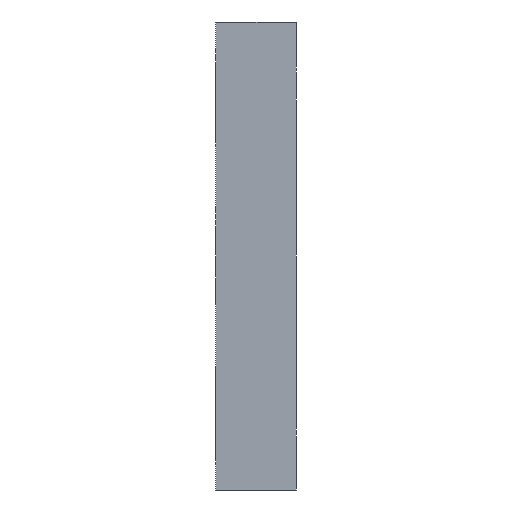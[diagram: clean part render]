
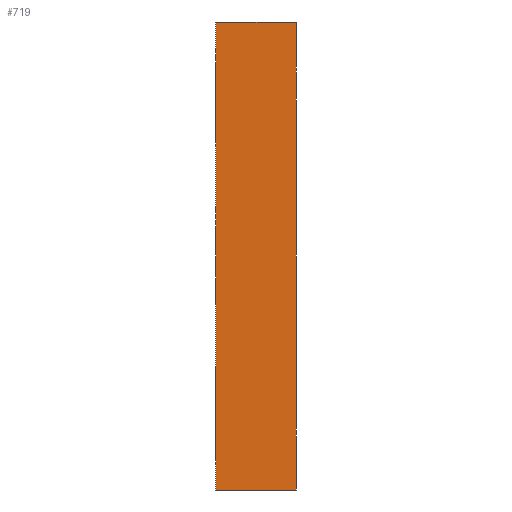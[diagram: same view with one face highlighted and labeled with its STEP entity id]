
A CAD part, left-side view. The second image highlights one B-rep face of the part: STEP entity #719.
In plain terms, the highlighted planar face has unit normal (-1, 0, 0).
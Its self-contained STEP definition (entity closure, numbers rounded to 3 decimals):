
#445 = DIRECTION ( 'NONE',  ( 0., 1., 0. ) ) ;
#446 = VECTOR ( 'NONE', #445, 1000. ) ;
#447 = CARTESIAN_POINT ( 'NONE',  ( -65., -15., 43.5 ) ) ;
#448 = LINE ( 'NONE', #447, #446 ) ;
#449 = CARTESIAN_POINT ( 'NONE',  ( -65., -15., 43.5 ) ) ;
#455 = DIRECTION ( 'NONE',  ( 0., 0., 1. ) ) ;
#456 = VECTOR ( 'NONE', #455, 1000. ) ;
#457 = CARTESIAN_POINT ( 'NONE',  ( -65., -15., -43.5 ) ) ;
#476 = CARTESIAN_POINT ( 'NONE',  ( -65., 0., 43.5 ) ) ;
#477 = CARTESIAN_POINT ( 'NONE',  ( -65., 0., -43.5 ) ) ;
#478 = DIRECTION ( 'NONE',  ( 0., 0., 1. ) ) ;
#479 = VECTOR ( 'NONE', #478, 1000. ) ;
#480 = CARTESIAN_POINT ( 'NONE',  ( -65., 0., -43.5 ) ) ;
#481 = LINE ( 'NONE', #480, #479 ) ;
#579 = LINE ( 'NONE', #457, #456 ) ;
#705 = EDGE_LOOP ( 'NONE', ( #718, #712, #725, #1007 ) ) ;
#707 = VERTEX_POINT ( 'NONE', #1016 ) ;
#708 = EDGE_CURVE ( 'NONE', #707, #1003, #1015, .T. ) ;
#712 = ORIENTED_EDGE ( 'NONE', *, *, #708, .F. ) ;
#718 = ORIENTED_EDGE ( 'NONE', *, *, #1002, .F. ) ;
#719 = ADVANCED_FACE ( 'NONE', ( #1183 ), #1177, .T. ) ;
#725 = ORIENTED_EDGE ( 'NONE', *, *, #966, .T. ) ;
#966 = EDGE_CURVE ( 'NONE', #707, #1006, #579, .T. ) ;
#1002 = EDGE_CURVE ( 'NONE', #1003, #1004, #481, .T. ) ;
#1003 = VERTEX_POINT ( 'NONE', #477 ) ;
#1004 = VERTEX_POINT ( 'NONE', #476 ) ;
#1006 = VERTEX_POINT ( 'NONE', #449 ) ;
#1007 = ORIENTED_EDGE ( 'NONE', *, *, #1008, .T. ) ;
#1008 = EDGE_CURVE ( 'NONE', #1006, #1004, #448, .T. ) ;
#1012 = DIRECTION ( 'NONE',  ( 0., 1., 0. ) ) ;
#1013 = VECTOR ( 'NONE', #1012, 1000. ) ;
#1014 = CARTESIAN_POINT ( 'NONE',  ( -65., -15., -43.5 ) ) ;
#1015 = LINE ( 'NONE', #1014, #1013 ) ;
#1016 = CARTESIAN_POINT ( 'NONE',  ( -65., -15., -43.5 ) ) ;
#1173 = DIRECTION ( 'NONE',  ( 0., 0., 1. ) ) ;
#1174 = DIRECTION ( 'NONE',  ( -1., 0., 0. ) ) ;
#1175 = CARTESIAN_POINT ( 'NONE',  ( -65., -15., -43.5 ) ) ;
#1176 = AXIS2_PLACEMENT_3D ( 'NONE', #1175, #1174, #1173 ) ;
#1177 = PLANE ( 'NONE',  #1176 ) ;
#1183 = FACE_OUTER_BOUND ( 'NONE', #705, .T. ) ;
